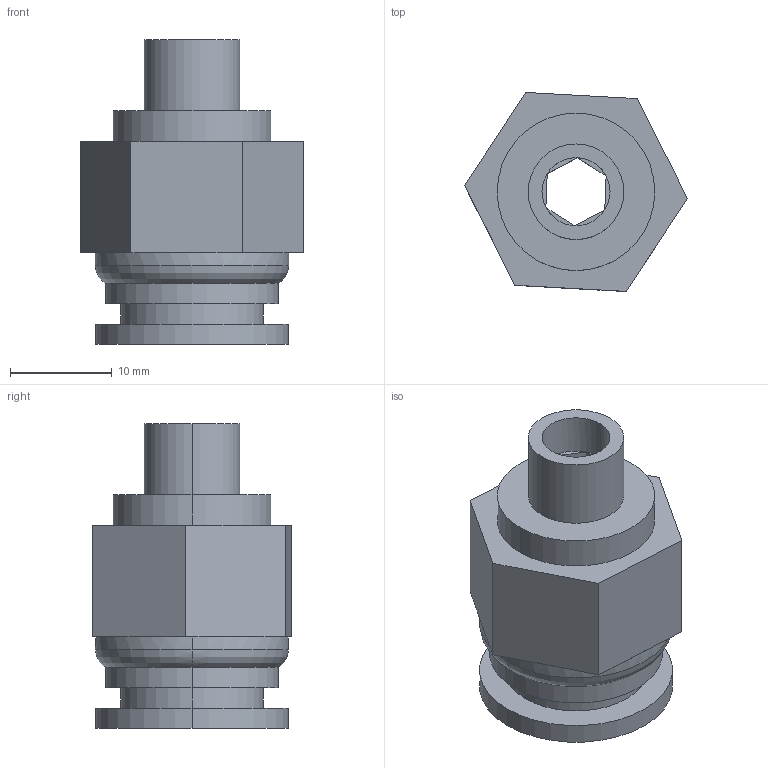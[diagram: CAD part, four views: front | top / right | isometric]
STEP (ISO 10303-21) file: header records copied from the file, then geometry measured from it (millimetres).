
FILE_DESCRIPTION (( 'STEP AP203' ), '1' );
FILE_NAME ('FH12-01.STEP', '2020-05-13T10:56:22', ( '' ), ( '' ), 'SwSTEP 2.0', 'SolidWorks 2019', '' );
FILE_SCHEMA (( 'CONFIG_CONTROL_DESIGN' ));
Length unit declared in the file: millimetre
Products named in the file (1): FH12-01
Bounding box: 21.91 x 19.58 x 30 mm (x, y, z)
Volume: 3979.3 mm3; surface area: 3333.1 mm2
Topology: 1 solids, 1 shells, 49 faces, 104 edges, 62 vertices
Faces by surface type: plane 31, cylinder 16, torus 2
Entity records: 1389 total; most frequent: DIRECTION 250, CARTESIAN_POINT 216, ORIENTED_EDGE 208, EDGE_CURVE 104, AXIS2_PLACEMENT_3D 96, VERTEX_POINT 62, VECTOR 58, LINE 58
